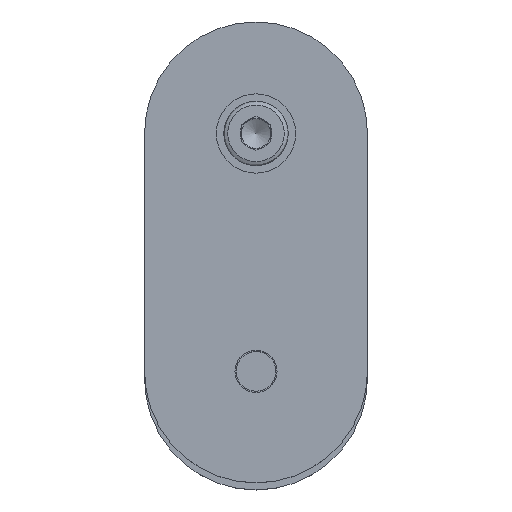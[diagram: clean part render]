
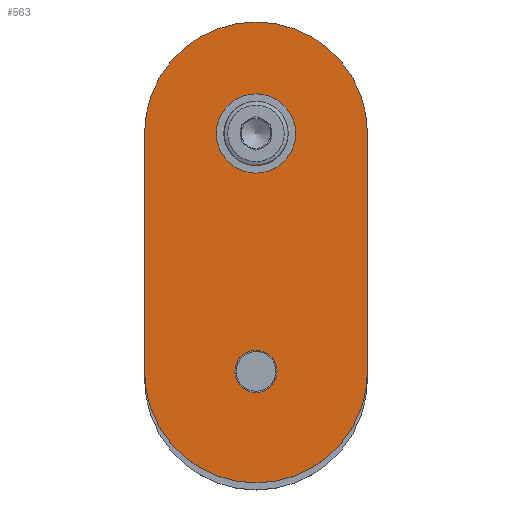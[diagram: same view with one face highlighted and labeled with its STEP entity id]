
A CAD part, top view. The second image highlights one B-rep face of the part: STEP entity #563.
In plain terms, the highlighted planar face has unit normal (0, 0, 1).
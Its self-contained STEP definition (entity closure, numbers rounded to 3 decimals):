
#24 = DIRECTION ( 'NONE',  ( 1., 0., 0. ) ) ;
#56 = ORIENTED_EDGE ( 'NONE', *, *, #714, .T. ) ;
#58 = CARTESIAN_POINT ( 'NONE',  ( 26.75, 0., 8. ) ) ;
#82 = DIRECTION ( 'NONE',  ( 0., -1., 0. ) ) ;
#84 = AXIS2_PLACEMENT_3D ( 'NONE', #1303, #1972, #827 ) ;
#101 = PLANE ( 'NONE',  #2044 ) ;
#210 = VERTEX_POINT ( 'NONE', #439 ) ;
#260 = VECTOR ( 'NONE', #82, 1000. ) ;
#313 = EDGE_CURVE ( 'NONE', #700, #700, #1408, .T. ) ;
#318 = EDGE_LOOP ( 'NONE', ( #652 ) ) ;
#369 = ORIENTED_EDGE ( 'NONE', *, *, #1747, .T. ) ;
#439 = CARTESIAN_POINT ( 'NONE',  ( 45., -48., 8. ) ) ;
#447 = CARTESIAN_POINT ( 'NONE',  ( 0., 0., 8. ) ) ;
#473 = EDGE_LOOP ( 'NONE', ( #1555 ) ) ;
#498 = CARTESIAN_POINT ( 'NONE',  ( 0., -48., 8. ) ) ;
#563 = ADVANCED_FACE ( 'NONE', ( #579, #1286, #917 ), #101, .T. ) ;
#579 = FACE_BOUND ( 'NONE', #318, .T. ) ;
#590 = CARTESIAN_POINT ( 'NONE',  ( 0., 0., 8. ) ) ;
#624 = VERTEX_POINT ( 'NONE', #447 ) ;
#652 = ORIENTED_EDGE ( 'NONE', *, *, #803, .F. ) ;
#670 = VECTOR ( 'NONE', #1500, 1000. ) ;
#700 = VERTEX_POINT ( 'NONE', #1366 ) ;
#714 = EDGE_CURVE ( 'NONE', #1013, #210, #1168, .T. ) ;
#732 = LINE ( 'NONE', #590, #260 ) ;
#743 = DIRECTION ( 'NONE',  ( 0., 0., 1. ) ) ;
#795 = VERTEX_POINT ( 'NONE', #990 ) ;
#803 = EDGE_CURVE ( 'NONE', #2022, #2022, #1940, .T. ) ;
#827 = DIRECTION ( 'NONE',  ( 1., 0., 0. ) ) ;
#917 = FACE_BOUND ( 'NONE', #473, .T. ) ;
#990 = CARTESIAN_POINT ( 'NONE',  ( 45., 0., 8. ) ) ;
#992 = DIRECTION ( 'NONE',  ( 0., 0., 1. ) ) ;
#1006 = ORIENTED_EDGE ( 'NONE', *, *, #1891, .T. ) ;
#1013 = VERTEX_POINT ( 'NONE', #498 ) ;
#1031 = CIRCLE ( 'NONE', #1103, 22.5 ) ;
#1077 = EDGE_LOOP ( 'NONE', ( #56, #1084, #1006, #369 ) ) ;
#1084 = ORIENTED_EDGE ( 'NONE', *, *, #1107, .T. ) ;
#1103 = AXIS2_PLACEMENT_3D ( 'NONE', #2047, #1872, #1104 ) ;
#1104 = DIRECTION ( 'NONE',  ( -1., 0., 0. ) ) ;
#1107 = EDGE_CURVE ( 'NONE', #210, #795, #1649, .T. ) ;
#1168 = CIRCLE ( 'NONE', #84, 22.5 ) ;
#1286 = FACE_OUTER_BOUND ( 'NONE', #1077, .T. ) ;
#1293 = CARTESIAN_POINT ( 'NONE',  ( 22.5, -48., 8. ) ) ;
#1303 = CARTESIAN_POINT ( 'NONE',  ( 22.5, -48., 8. ) ) ;
#1310 = CARTESIAN_POINT ( 'NONE',  ( 22.5, 0., 8. ) ) ;
#1331 = AXIS2_PLACEMENT_3D ( 'NONE', #1310, #1492, #24 ) ;
#1366 = CARTESIAN_POINT ( 'NONE',  ( 26.75, -48., 8. ) ) ;
#1408 = CIRCLE ( 'NONE', #1505, 4.25 ) ;
#1492 = DIRECTION ( 'NONE',  ( 0., 0., 1. ) ) ;
#1500 = DIRECTION ( 'NONE',  ( 0., 1., 0. ) ) ;
#1505 = AXIS2_PLACEMENT_3D ( 'NONE', #1957, #992, #1989 ) ;
#1555 = ORIENTED_EDGE ( 'NONE', *, *, #313, .F. ) ;
#1576 = DIRECTION ( 'NONE',  ( 1., 0., 0. ) ) ;
#1649 = LINE ( 'NONE', #1995, #670 ) ;
#1747 = EDGE_CURVE ( 'NONE', #624, #1013, #732, .T. ) ;
#1872 = DIRECTION ( 'NONE',  ( 0., 0., 1. ) ) ;
#1891 = EDGE_CURVE ( 'NONE', #795, #624, #1031, .T. ) ;
#1940 = CIRCLE ( 'NONE', #1331, 4.25 ) ;
#1957 = CARTESIAN_POINT ( 'NONE',  ( 22.5, -48., 8. ) ) ;
#1972 = DIRECTION ( 'NONE',  ( 0., 0., 1. ) ) ;
#1989 = DIRECTION ( 'NONE',  ( 1., 0., 0. ) ) ;
#1995 = CARTESIAN_POINT ( 'NONE',  ( 45., 0., 8. ) ) ;
#2022 = VERTEX_POINT ( 'NONE', #58 ) ;
#2044 = AXIS2_PLACEMENT_3D ( 'NONE', #1293, #743, #1576 ) ;
#2047 = CARTESIAN_POINT ( 'NONE',  ( 22.5, 0., 8. ) ) ;
